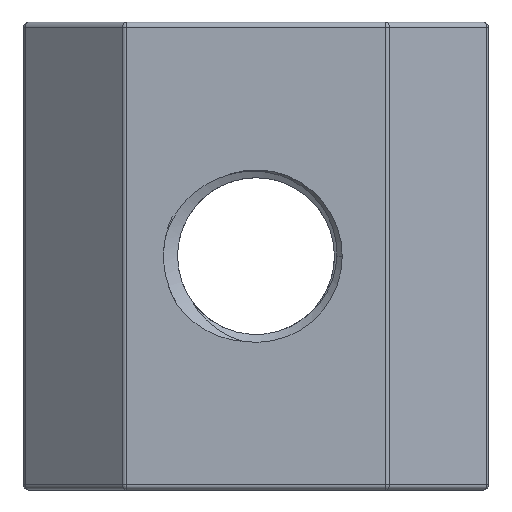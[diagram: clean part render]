
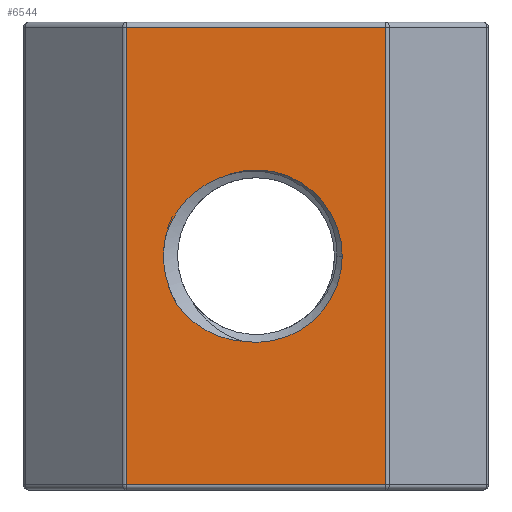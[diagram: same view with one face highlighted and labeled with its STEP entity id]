
A CAD part, front view. The second image highlights one B-rep face of the part: STEP entity #6544.
In plain terms, the highlighted planar face has unit normal (0, -1, 0).
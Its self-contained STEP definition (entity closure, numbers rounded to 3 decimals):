
#45 = CARTESIAN_POINT ( 'NONE',  ( -4.971, -4.2, -8.75 ) ) ;
#52 = CARTESIAN_POINT ( 'NONE',  ( -3.006, -4.2, 1.734 ) ) ;
#134 = B_SPLINE_CURVE_WITH_KNOTS ( 'NONE', 3,
 ( #6318, #6125, #1649, #950, #213, #4648, #3223, #1991, #6515, #2631 ),
 .UNSPECIFIED., .F., .F.,
 ( 4, 2, 2, 2, 4 ),
 ( 0.003, 0.004, 0.005, 0.006, 0.006 ),
 .UNSPECIFIED. ) ;
#198 = CARTESIAN_POINT ( 'NONE',  ( -3.026, -4.2, -1.84 ) ) ;
#213 = CARTESIAN_POINT ( 'NONE',  ( -1.701, -4.2, -2.96 ) ) ;
#216 = LINE ( 'NONE', #9239, #3813 ) ;
#256 = EDGE_LOOP ( 'NONE', ( #8199, #8778, #4300, #3567, #2471 ) ) ;
#349 = CARTESIAN_POINT ( 'NONE',  ( 4.971, -4.2, 8.95 ) ) ;
#425 = CARTESIAN_POINT ( 'NONE',  ( 0., -4.2, 0. ) ) ;
#500 = AXIS2_PLACEMENT_3D ( 'NONE', #7555, #2346, #6276 ) ;
#742 = CARTESIAN_POINT ( 'NONE',  ( -2.328, -4.2, 2.467 ) ) ;
#803 = CIRCLE ( 'NONE', #5505, 3.3 ) ;
#813 = DIRECTION ( 'NONE',  ( 1., 0., 0. ) ) ;
#927 = LINE ( 'NONE', #4389, #6324 ) ;
#950 = CARTESIAN_POINT ( 'NONE',  ( -1.471, -4.2, -3.058 ) ) ;
#1281 = EDGE_CURVE ( 'NONE', #9680, #7247, #927, .T. ) ;
#1484 = CARTESIAN_POINT ( 'NONE',  ( -3.026, -4.2, -1.84 ) ) ;
#1649 = CARTESIAN_POINT ( 'NONE',  ( -0.989, -4.2, -3.202 ) ) ;
#1991 = CARTESIAN_POINT ( 'NONE',  ( -2.711, -4.2, -2.23 ) ) ;
#2228 = EDGE_LOOP ( 'NONE', ( #8878, #4638, #7668, #5631 ) ) ;
#2283 = LINE ( 'NONE', #5970, #2637 ) ;
#2337 = EDGE_CURVE ( 'NONE', #6713, #3992, #8283, .T. ) ;
#2346 = DIRECTION ( 'NONE',  ( 0., 1., 0. ) ) ;
#2375 = DIRECTION ( 'NONE',  ( 0., 0., -1. ) ) ;
#2471 = ORIENTED_EDGE ( 'NONE', *, *, #9299, .T. ) ;
#2631 = CARTESIAN_POINT ( 'NONE',  ( -3.026, -4.2, -1.84 ) ) ;
#2637 = VECTOR ( 'NONE', #2375, 1000. ) ;
#2776 = CARTESIAN_POINT ( 'NONE',  ( -3.441, -4.2, 0.838 ) ) ;
#2898 = EDGE_CURVE ( 'NONE', #7247, #5873, #2283, .T. ) ;
#2909 = CARTESIAN_POINT ( 'NONE',  ( -2.854, -4.2, 1.938 ) ) ;
#3021 = EDGE_CURVE ( 'NONE', #5927, #9680, #7826, .T. ) ;
#3223 = CARTESIAN_POINT ( 'NONE',  ( -2.342, -4.2, -2.565 ) ) ;
#3465 = VERTEX_POINT ( 'NONE', #8694 ) ;
#3567 = ORIENTED_EDGE ( 'NONE', *, *, #2337, .T. ) ;
#3750 = PLANE ( 'NONE',  #4627 ) ;
#3790 = CARTESIAN_POINT ( 'NONE',  ( -3.259, -4.2, 1.305 ) ) ;
#3804 = CIRCLE ( 'NONE', #500, 3.3 ) ;
#3813 = VECTOR ( 'NONE', #813, 1000. ) ;
#3850 = EDGE_CURVE ( 'NONE', #6678, #6713, #134, .T. ) ;
#3992 = VERTEX_POINT ( 'NONE', #2776 ) ;
#4300 = ORIENTED_EDGE ( 'NONE', *, *, #3850, .T. ) ;
#4383 = CARTESIAN_POINT ( 'NONE',  ( -3.441, -4.2, 0.838 ) ) ;
#4389 = CARTESIAN_POINT ( 'NONE',  ( -5.05, -4.2, 8.75 ) ) ;
#4489 = FACE_BOUND ( 'NONE', #256, .T. ) ;
#4627 = AXIS2_PLACEMENT_3D ( 'NONE', #6985, #5456, #5503 ) ;
#4638 = ORIENTED_EDGE ( 'NONE', *, *, #8714, .T. ) ;
#4648 = CARTESIAN_POINT ( 'NONE',  ( -2.136, -4.2, -2.714 ) ) ;
#4656 = CARTESIAN_POINT ( 'NONE',  ( -4.971, -4.2, 8.75 ) ) ;
#4764 = B_SPLINE_CURVE_WITH_KNOTS ( 'NONE', 3,
 ( #4383, #6787, #3790, #52, #2909, #5118, #742, #8273, #6059, #9713 ),
 .UNSPECIFIED., .F., .F.,
 ( 4, 2, 2, 2, 4 ),
 ( 0., 0.001, 0.001, 0.002, 0.003 ),
 .UNSPECIFIED. ) ;
#5117 = CARTESIAN_POINT ( 'NONE',  ( -3.441, -4.2, 0.838 ) ) ;
#5118 = CARTESIAN_POINT ( 'NONE',  ( -2.515, -4.2, 2.303 ) ) ;
#5126 = DIRECTION ( 'NONE',  ( -1., 0., 0. ) ) ;
#5456 = DIRECTION ( 'NONE',  ( 0., 1., 0. ) ) ;
#5503 = DIRECTION ( 'NONE',  ( -1., 0., 0. ) ) ;
#5505 = AXIS2_PLACEMENT_3D ( 'NONE', #425, #9501, #9596 ) ;
#5531 = EDGE_CURVE ( 'NONE', #3465, #9183, #803, .T. ) ;
#5631 = ORIENTED_EDGE ( 'NONE', *, *, #1281, .T. ) ;
#5873 = VERTEX_POINT ( 'NONE', #45 ) ;
#5927 = VERTEX_POINT ( 'NONE', #8453 ) ;
#5970 = CARTESIAN_POINT ( 'NONE',  ( -4.971, -4.2, 8.95 ) ) ;
#6008 = CARTESIAN_POINT ( 'NONE',  ( -3.429, -4.2, -0.998 ) ) ;
#6059 = CARTESIAN_POINT ( 'NONE',  ( -1.691, -4.2, 2.869 ) ) ;
#6125 = CARTESIAN_POINT ( 'NONE',  ( -0.741, -4.2, -3.246 ) ) ;
#6276 = DIRECTION ( 'NONE',  ( -1., 0., 0. ) ) ;
#6318 = CARTESIAN_POINT ( 'NONE',  ( -0.492, -4.2, -3.263 ) ) ;
#6324 = VECTOR ( 'NONE', #5126, 1000. ) ;
#6515 = CARTESIAN_POINT ( 'NONE',  ( -2.878, -4.2, -2.045 ) ) ;
#6544 = ADVANCED_FACE ( 'NONE', ( #4489, #7482 ), #3750, .F. ) ;
#6557 = VECTOR ( 'NONE', #9321, 1000. ) ;
#6678 = VERTEX_POINT ( 'NONE', #9313 ) ;
#6713 = VERTEX_POINT ( 'NONE', #198 ) ;
#6786 = CARTESIAN_POINT ( 'NONE',  ( -3.551, -4.2, 0.386 ) ) ;
#6787 = CARTESIAN_POINT ( 'NONE',  ( -3.362, -4.2, 1.078 ) ) ;
#6985 = CARTESIAN_POINT ( 'NONE',  ( -5.05, -4.2, 8.95 ) ) ;
#7212 = EDGE_CURVE ( 'NONE', #9183, #6678, #3804, .T. ) ;
#7247 = VERTEX_POINT ( 'NONE', #4656 ) ;
#7482 = FACE_OUTER_BOUND ( 'NONE', #2228, .T. ) ;
#7522 = CARTESIAN_POINT ( 'NONE',  ( -3.267, -4.2, -1.443 ) ) ;
#7555 = CARTESIAN_POINT ( 'NONE',  ( 0., -4.2, 0. ) ) ;
#7668 = ORIENTED_EDGE ( 'NONE', *, *, #3021, .T. ) ;
#7826 = LINE ( 'NONE', #349, #6557 ) ;
#8199 = ORIENTED_EDGE ( 'NONE', *, *, #5531, .T. ) ;
#8272 = CARTESIAN_POINT ( 'NONE',  ( -3.57, -4.2, -0.088 ) ) ;
#8273 = CARTESIAN_POINT ( 'NONE',  ( -1.914, -4.2, 2.751 ) ) ;
#8283 = B_SPLINE_CURVE_WITH_KNOTS ( 'NONE', 3,
 ( #1484, #7522, #6008, #8272, #6786, #5117 ),
 .UNSPECIFIED., .F., .F.,
 ( 4, 2, 4 ),
 ( 0., 0.001, 0.003 ),
 .UNSPECIFIED. ) ;
#8453 = CARTESIAN_POINT ( 'NONE',  ( 4.971, -4.2, -8.75 ) ) ;
#8694 = CARTESIAN_POINT ( 'NONE',  ( -1.46, -4.2, 2.959 ) ) ;
#8714 = EDGE_CURVE ( 'NONE', #5873, #5927, #216, .T. ) ;
#8778 = ORIENTED_EDGE ( 'NONE', *, *, #7212, .T. ) ;
#8806 = CARTESIAN_POINT ( 'NONE',  ( 4.971, -4.2, 8.75 ) ) ;
#8878 = ORIENTED_EDGE ( 'NONE', *, *, #2898, .T. ) ;
#9183 = VERTEX_POINT ( 'NONE', #9269 ) ;
#9239 = CARTESIAN_POINT ( 'NONE',  ( 5.05, -4.2, -8.75 ) ) ;
#9269 = CARTESIAN_POINT ( 'NONE',  ( 3.3, -4.2, 0. ) ) ;
#9299 = EDGE_CURVE ( 'NONE', #3992, #3465, #4764, .T. ) ;
#9313 = CARTESIAN_POINT ( 'NONE',  ( -0.492, -4.2, -3.263 ) ) ;
#9321 = DIRECTION ( 'NONE',  ( 0., 0., 1. ) ) ;
#9501 = DIRECTION ( 'NONE',  ( 0., 1., 0. ) ) ;
#9596 = DIRECTION ( 'NONE',  ( -1., 0., 0. ) ) ;
#9680 = VERTEX_POINT ( 'NONE', #8806 ) ;
#9713 = CARTESIAN_POINT ( 'NONE',  ( -1.46, -4.2, 2.959 ) ) ;
